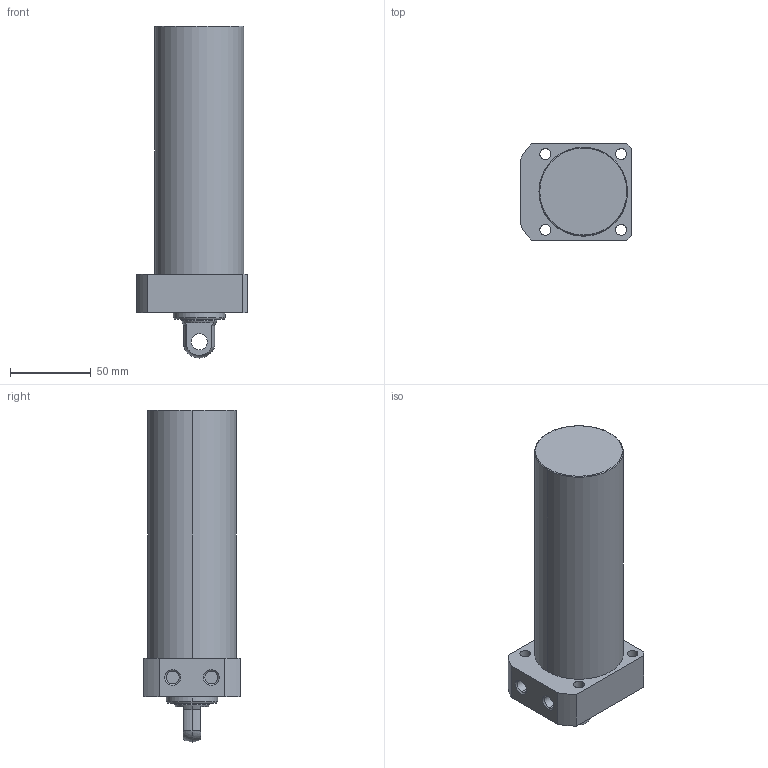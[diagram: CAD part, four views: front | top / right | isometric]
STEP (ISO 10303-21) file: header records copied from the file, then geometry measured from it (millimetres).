
FILE_DESCRIPTION (( 'STEP AP203' ), '1' );
FILE_NAME ('CLLR-055CP-125.STEP', '2019-12-17T12:39:49', ( '' ), ( '' ), 'SwSTEP 2.0', 'SolidWorks 2015', '' );
FILE_SCHEMA (( 'CONFIG_CONTROL_DESIGN' ));
Length unit declared in the file: millimetre
Products named in the file (1): CLLR-055CP-125
Bounding box: 69 x 60 x 206 mm (x, y, z)
Volume: 465401.6 mm3; surface area: 44827.4 mm2
Topology: 1 solids, 1 shells, 59 faces, 139 edges, 89 vertices
Faces by surface type: cylinder 29, plane 18, cone 8, torus 2, sphere 2
Entity records: 1822 total; most frequent: DIRECTION 331, CARTESIAN_POINT 300, ORIENTED_EDGE 278, EDGE_CURVE 139, AXIS2_PLACEMENT_3D 136, VERTEX_POINT 89, EDGE_LOOP 76, CIRCLE 76
